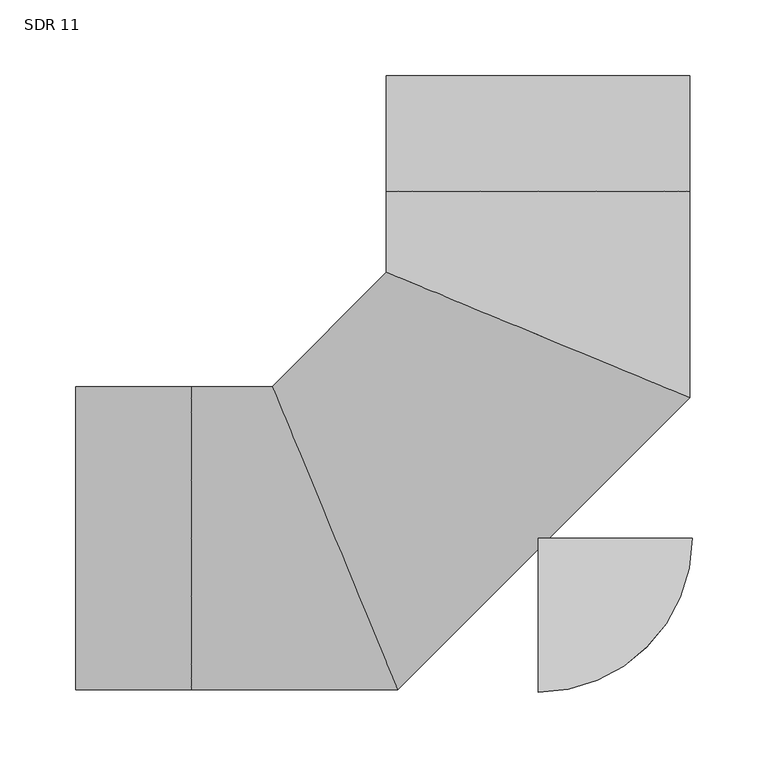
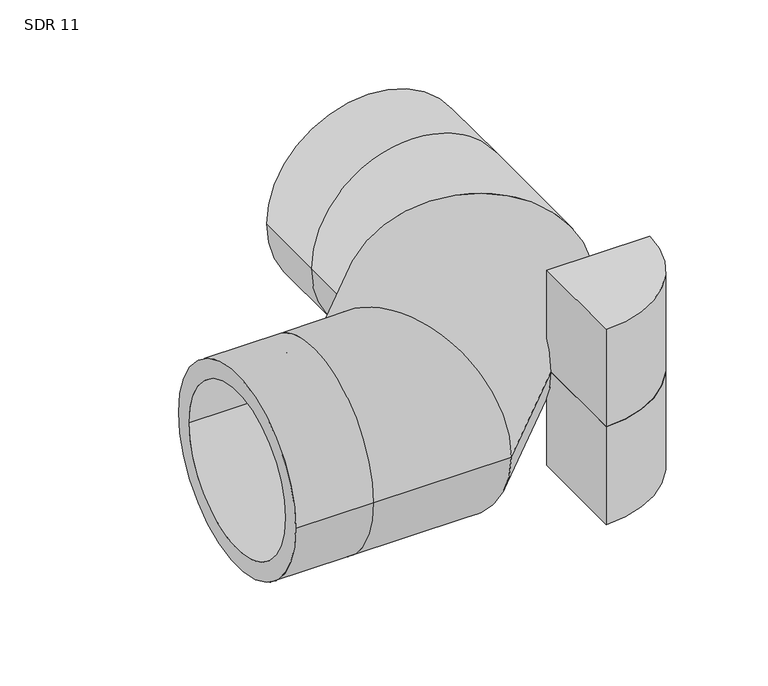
"""IFC4 building model written with IfcOpenShell, lengths in millimetres: pipe fitting geometry, Aquatherm - Elbow Blue BW Segmented : SDR 11."""

from ifc_helpers import new_model, si_unit, point, frame, origin, origin_with_axes, origin_2d, place, context, project, spatial, polyline, circle_curve, ellipse_curve, trimmed, segment, composite_curve, outline, extrude, source, transform, mapped, element, save
from ifc_brep_helpers import plane_surface, cylinder_surface, revolved_surface, advanced_brep


def sdr_11_92981d82(model_context):
    return source(origin(), model_context, "Body", "SolidModel", [
        extrude(outline(composite_curve([segment(polyline([(0.0, -101.6), (0.0, 0.0), (101.6, 0.0)]), True, "CONTINUOUS"), segment(trimmed(circle_curve(origin_2d(), 101.6), [point((101.6, 0.0))], [point((0.0, -101.6))], False, "CARTESIAN"), True, "CONTINUOUS")], self_intersect=False)), frame((0.0, 0.0, -101.6), z_axis=(0.0, 0.0, 1.0), x_axis=(1.0, 0.0, 0.0)), (0.0, 0.0, 1.0), 101.6),
        extrude(outline(composite_curve([segment(trimmed(circle_curve(origin_2d(), 101.6), [point((101.6, 0.0))], [point((0.0, -101.6))], False, "CARTESIAN"), True, "CONTINUOUS"), segment(polyline([(0.0, -101.6), (0.0, 0.0), (101.6, 0.0)]), True, "CONTINUOUS")], self_intersect=False)), origin_with_axes(), (0.0, 0.0, 1.0), 101.6),
        advanced_brep(
        [(-304.8, -99.949, 0.0), (-304.8, 99.949, 0.0), (-304.8, -81.7764545, 0.0), (-304.8, 81.7764545, 0.0), (99.949, 304.8, 0.0), (-99.949, 304.8, 0.0), (81.7764545, 304.8, 0.0), (-81.7764545, 304.8, 0.0), (-228.6, -99.949, 0.0), (-228.6, 99.949, 0.0), (-228.6, -81.7764545, 0.0), (-228.6, 81.7764545, 0.0), (-92.5105483, -99.949, 0.0), (-175.311011, 99.949, 0.0), (-100.0378631, -81.7764545, 0.0), (-167.7836962, 81.7764545, 0.0), (99.949, 92.5105483, 0.0), (-99.949, 175.311011, 0.0), (81.7764545, 100.0378631, 0.0), (-81.7764545, 167.7836962, 0.0), (-99.949, 228.6, 0.0), (99.949, 228.6, 0.0), (-81.7764545, 228.6, 0.0), (81.7764545, 228.6, 0.0)],
        [
            (0, 1, circle_curve(frame((-304.8, 0.0, 0.0), z_axis=(-1.0, 0.0, 0.0), x_axis=(0.0, 1.0, 0.0)), 99.949)),
            (1, 0, circle_curve(frame((-304.8, 0.0, 0.0), z_axis=(-1.0, 0.0, 0.0), x_axis=(0.0, 1.0, 0.0)), 99.949)),
            (2, 3, circle_curve(frame((-304.8, 0.0, 0.0), z_axis=(1.0, 0.0, 0.0), x_axis=(0.0, 1.0, 0.0)), 81.7764545)),
            (3, 2, circle_curve(frame((-304.8, 0.0, 0.0), z_axis=(1.0, 0.0, 0.0), x_axis=(0.0, 1.0, 0.0)), 81.7764545)),
            (4, 5, circle_curve(frame((0.0, 304.8, 0.0), z_axis=(0.0, 1.0, 0.0), x_axis=(-1.0, 0.0, 0.0)), 99.949)),
            (5, 4, circle_curve(frame((0.0, 304.8, 0.0), z_axis=(0.0, 1.0, 0.0), x_axis=(-1.0, 0.0, 0.0)), 99.949)),
            (6, 7, circle_curve(frame((0.0, 304.8, 0.0), z_axis=(0.0, -1.0, 0.0), x_axis=(-1.0, 0.0, 0.0)), 81.7764545)),
            (7, 6, circle_curve(frame((0.0, 304.8, 0.0), z_axis=(0.0, -1.0, 0.0), x_axis=(-1.0, 0.0, 0.0)), 81.7764545)),
            (0, 8),
            (8, 9, circle_curve(frame((-228.6, 0.0, 0.0), z_axis=(-1.0, 0.0, 0.0), x_axis=(0.0, 1.0, 0.0)), 99.949)),
            (9, 1),
            (9, 8, circle_curve(frame((-228.6, 0.0, 0.0), z_axis=(-1.0, 0.0, 0.0), x_axis=(0.0, 1.0, 0.0)), 99.949)),
            (2, 10),
            (10, 11, circle_curve(frame((-228.6, 0.0, 0.0), z_axis=(1.0, 0.0, 0.0), x_axis=(0.0, 1.0, 0.0)), 81.7764545)),
            (11, 3),
            (11, 10, circle_curve(frame((-228.6, 0.0, 0.0), z_axis=(1.0, 0.0, 0.0), x_axis=(0.0, 1.0, 0.0)), 81.7764545)),
            (8, 12),
            (12, 13, ellipse_curve(frame((-133.9107796, 0.0, 0.0), z_axis=(-0.9238795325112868, -0.3826834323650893, 0.0), x_axis=(-0.3826834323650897, 0.9238795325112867, 0.0)), 108.184018, 99.949)),
            (13, 9),
            (13, 12, ellipse_curve(frame((-133.9107796, 0.0, 0.0), z_axis=(-0.9238795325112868, -0.3826834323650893, 0.0), x_axis=(-0.3826834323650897, 0.9238795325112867, 0.0)), 108.184018, 99.949)),
            (10, 14),
            (14, 15, ellipse_curve(frame((-133.9107796, 0.0, 0.0), z_axis=(0.9238795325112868, 0.3826834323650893, 0.0), x_axis=(0.3826834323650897, -0.9238795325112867, 0.0)), 88.5141966, 81.7764545)),
            (15, 11),
            (15, 14, ellipse_curve(frame((-133.9107796, 0.0, 0.0), z_axis=(0.9238795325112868, 0.3826834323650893, 0.0), x_axis=(0.3826834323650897, -0.9238795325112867, 0.0)), 88.5141966, 81.7764545)),
            (12, 16),
            (16, 17, ellipse_curve(frame((0.0, 133.9107796, 0.0), z_axis=(-0.3826834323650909, -0.9238795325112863, 0.0), x_axis=(-0.9238795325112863, 0.382683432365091, 0.0)), 108.184018, 99.949)),
            (17, 13),
            (17, 16, ellipse_curve(frame((0.0, 133.9107796, 0.0), z_axis=(-0.3826834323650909, -0.9238795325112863, 0.0), x_axis=(-0.9238795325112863, 0.382683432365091, 0.0)), 108.184018, 99.949)),
            (14, 18),
            (18, 19, ellipse_curve(frame((0.0, 133.9107796, 0.0), z_axis=(0.3826834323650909, 0.9238795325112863, 0.0), x_axis=(0.9238795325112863, -0.382683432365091, 0.0)), 88.5141966, 81.7764545)),
            (19, 15),
            (19, 18, ellipse_curve(frame((0.0, 133.9107796, 0.0), z_axis=(0.3826834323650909, 0.9238795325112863, 0.0), x_axis=(0.9238795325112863, -0.382683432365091, 0.0)), 88.5141966, 81.7764545)),
            (20, 21, circle_curve(frame((0.0, 228.6, 0.0), z_axis=(0.0, 1.0, 0.0), x_axis=(-1.0, 0.0, 0.0)), 99.949)),
            (21, 4),
            (5, 20),
            (21, 20, circle_curve(frame((0.0, 228.6, 0.0), z_axis=(0.0, 1.0, 0.0), x_axis=(-1.0, 0.0, 0.0)), 99.949)),
            (22, 23, circle_curve(frame((0.0, 228.6, 0.0), z_axis=(0.0, -1.0, 0.0), x_axis=(-1.0, 0.0, 0.0)), 81.7764545)),
            (23, 6),
            (7, 22),
            (23, 22, circle_curve(frame((0.0, 228.6, 0.0), z_axis=(0.0, -1.0, 0.0), x_axis=(-1.0, 0.0, 0.0)), 81.7764545)),
            (16, 21),
            (20, 17),
            (18, 23),
            (22, 19),
        ],
        [
            plane_surface(frame((-304.8, 0.0, 0.0), z_axis=(-1.0, 0.0, 0.0), x_axis=(0.0, 0.0, 1.0))),
            plane_surface(frame((0.0, 304.8, 0.0), z_axis=(0.0, 1.0, 0.0), x_axis=(0.0, 0.0, 1.0))),
            cylinder_surface(frame((-304.8, 0.0, 0.0), z_axis=(-1.0, 0.0, 0.0), x_axis=(0.0, 1.0, 0.0)), 99.949),
            revolved_surface(polyline([(-228.6, 81.7764545, 0.0), (-304.8, 81.7764545, 0.0)]), (-304.8, 0.0, 0.0), (1.0, 0.0, 0.0)),
            cylinder_surface(frame((-228.6, 0.0, 0.0), z_axis=(-1.0, 0.0, 0.0), x_axis=(0.0, 1.0, 0.0)), 99.949),
            revolved_surface(polyline([(-100.03786303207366, 81.7764545, 0.0), (-228.6, 81.7764545, 0.0)]), (-228.6, 0.0, 0.0), (1.0, 0.0, 0.0)),
            cylinder_surface(frame((-133.9107796, 0.0, 0.0), z_axis=(-0.7071067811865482, -0.7071067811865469, 0.0), x_axis=(-0.7071067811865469, 0.7071067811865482, 0.0)), 99.949),
            revolved_surface(polyline([(-33.87291651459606, 215.68723412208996, 0.0), (-215.68723412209, 33.8729165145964, 0.0)]), (-133.9107796, 0.0, 0.0), (0.7071067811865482, 0.7071067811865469, 0.0)),
            cylinder_surface(frame((0.0, 228.6, 0.0), z_axis=(0.0, -1.0, 0.0), x_axis=(-1.0, 0.0, 0.0)), 99.949),
            revolved_surface(polyline([(-81.7764545, 304.8, 0.0), (-81.7764545, 228.6, 0.0)]), (0.0, 228.6, 0.0), (0.0, 1.0, 0.0)),
            cylinder_surface(frame((0.0, 133.9107796, 0.0), z_axis=(0.0, -1.0, 0.0), x_axis=(-1.0, 0.0, 0.0)), 99.949),
            revolved_surface(polyline([(-81.7764545, 228.6, 0.0), (-81.7764545, 100.03786303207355, 0.0)]), (0.0, 133.9107796, 0.0), (0.0, 1.0, 0.0)),
        ],
        [
            (0, [[1, 2], [3, 4]]),
            (1, [[5, 6], [7, 8]]),
            (2, [[-1, 9, 10, 11]]),
            (2, [[-2, -11, 12, -9]]),
            (3, [[-3, 13, 14, 15]]),
            (3, [[-4, -15, 16, -13]]),
            (4, [[-10, 17, 18, 19]]),
            (4, [[-12, -19, 20, -17]]),
            (5, [[-14, 21, 22, 23]]),
            (5, [[-16, -23, 24, -21]]),
            (6, [[-18, 25, 26, 27]]),
            (6, [[-20, -27, 28, -25]]),
            (7, [[-22, 29, 30, 31]]),
            (7, [[-24, -31, 32, -29]]),
            (8, [[33, 34, -6, 35]]),
            (8, [[36, -35, -5, -34]]),
            (9, [[37, 38, -8, 39]]),
            (9, [[40, -39, -7, -38]]),
            (10, [[-26, 41, -33, 42]]),
            (10, [[-28, -42, -36, -41]]),
            (11, [[-30, 43, -37, 44]]),
            (11, [[-32, -44, -40, -43]]),
        ],
    ),
    ])


if __name__ == "__main__":
    model = new_model("IFC4")
    model_context = context("Model", 3, world=origin())
    ifc_project = project(units=[si_unit("LENGTHUNIT", "METRE", prefix="MILLI")], contexts=[model_context])
    site = spatial("IfcSite", under=ifc_project)
    building = spatial("IfcBuilding", under=site)
    placement = place(None, origin())
    sdr_11_shape = sdr_11_92981d82(model_context)
    element("IfcPipeFitting", 1, ObjectType="Aquatherm - Elbow Blue BW Segmented : SDR 11", at=placement, inside=building, context=model_context, shape_type="MappedRepresentation", body=[
        mapped(sdr_11_shape, transform((0.0, 0.0, 0.0), x_axis=(1.0, 0.0, 0.0), y_axis=(0.0, 1.0, 0.0), z_axis=(0.0, 0.0, 1.0))),
    ])
    save(model, "model.ifc")
